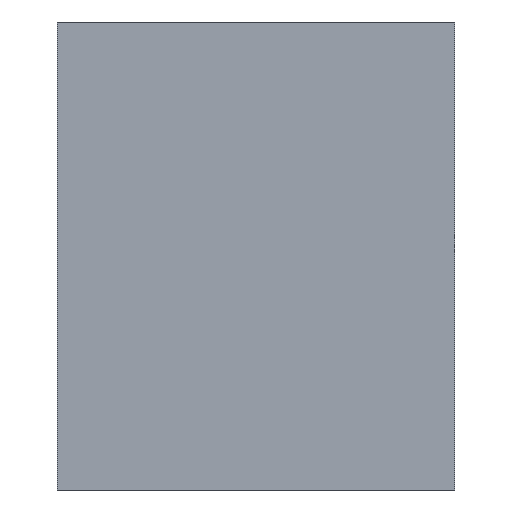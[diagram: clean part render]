
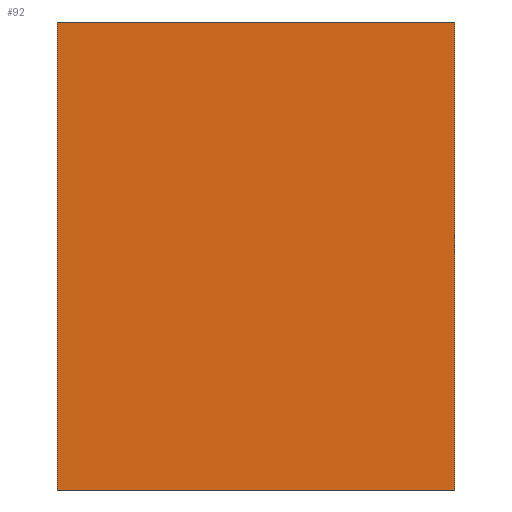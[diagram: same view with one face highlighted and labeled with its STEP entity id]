
A CAD part, top view. The second image highlights one B-rep face of the part: STEP entity #92.
In plain terms, the highlighted planar face has unit normal (0, 0, 1).
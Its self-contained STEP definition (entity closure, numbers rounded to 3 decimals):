
#53=CARTESIAN_POINT('Axis2P3D Location',(0.,0.,0.)) ;
#58=CARTESIAN_POINT('Line Origine',(56.5,0.,0.)) ;
#62=CARTESIAN_POINT('Vertex',(0.,0.,0.)) ;
#64=CARTESIAN_POINT('Vertex',(113.,0.,0.)) ;
#67=CARTESIAN_POINT('Line Origine',(113.,66.5,0.)) ;
#71=CARTESIAN_POINT('Vertex',(113.,133.,0.)) ;
#74=CARTESIAN_POINT('Line Origine',(56.5,133.,0.)) ;
#78=CARTESIAN_POINT('Vertex',(0.,133.,0.)) ;
#81=CARTESIAN_POINT('Line Origine',(0.,66.5,0.)) ;
#54=DIRECTION('Axis2P3D Direction',(0.,0.,1.)) ;
#55=DIRECTION('Axis2P3D XDirection',(1.,0.,0.)) ;
#59=DIRECTION('Vector Direction',(1.,0.,0.)) ;
#68=DIRECTION('Vector Direction',(0.,1.,0.)) ;
#75=DIRECTION('Vector Direction',(-1.,0.,0.)) ;
#82=DIRECTION('Vector Direction',(0.,-1.,0.)) ;
#56=AXIS2_PLACEMENT_3D('Plane Axis2P3D',#53,#54,#55) ;
#87=ORIENTED_EDGE('',*,*,#66,.T.) ;
#88=ORIENTED_EDGE('',*,*,#73,.T.) ;
#89=ORIENTED_EDGE('',*,*,#80,.T.) ;
#90=ORIENTED_EDGE('',*,*,#85,.T.) ;
#60=VECTOR('Line Direction',#59,1.) ;
#69=VECTOR('Line Direction',#68,1.) ;
#76=VECTOR('Line Direction',#75,1.) ;
#83=VECTOR('Line Direction',#82,1.) ;
#92=ADVANCED_FACE('Fill.1',(#91),#57,.T.) ;
#66=EDGE_CURVE('',#63,#65,#61,.T.) ;
#73=EDGE_CURVE('',#65,#72,#70,.T.) ;
#80=EDGE_CURVE('',#72,#79,#77,.T.) ;
#85=EDGE_CURVE('',#79,#63,#84,.T.) ;
#86=EDGE_LOOP('',(#87,#88,#89,#90)) ;
#91=FACE_OUTER_BOUND('',#86,.T.) ;
#61=LINE('Line',#58,#60) ;
#70=LINE('Line',#67,#69) ;
#77=LINE('Line',#74,#76) ;
#84=LINE('Line',#81,#83) ;
#57=PLANE('',#56) ;
#63=VERTEX_POINT('',#62) ;
#65=VERTEX_POINT('',#64) ;
#72=VERTEX_POINT('',#71) ;
#79=VERTEX_POINT('',#78) ;
